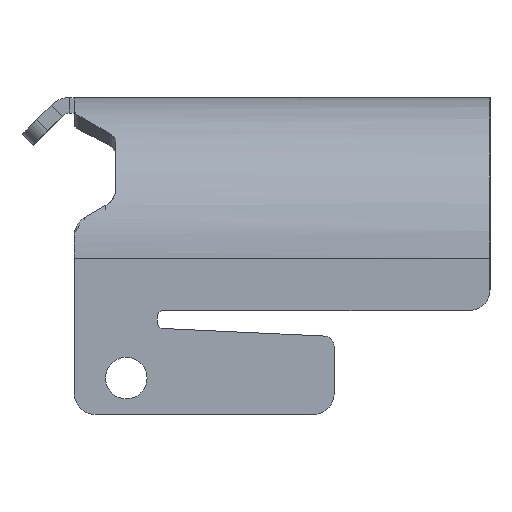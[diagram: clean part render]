
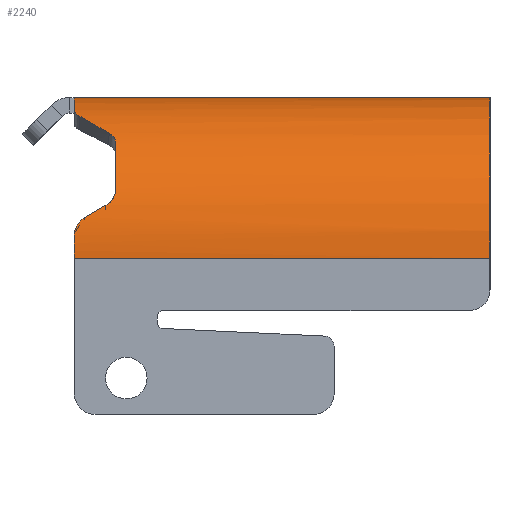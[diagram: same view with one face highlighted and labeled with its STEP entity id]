
A CAD part, left-side view. The second image highlights one B-rep face of the part: STEP entity #2240.
In plain terms, the highlighted cylindrical face has radius 15.5 mm (diameter 31 mm), a partial arc.
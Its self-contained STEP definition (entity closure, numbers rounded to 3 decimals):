
#738=DIRECTION('',(0.,1.,0.));
#739=VECTOR('',#738,40.);
#740=CARTESIAN_POINT('',(-160.25,-20.,0.));
#741=LINE('',#740,#739);
#758=CARTESIAN_POINT('',(-160.25,-20.,-15.5));
#759=DIRECTION('',(0.,1.,0.));
#760=DIRECTION('',(-1.,0.,0.));
#761=AXIS2_PLACEMENT_3D('',#758,#759,#760);
#772=CARTESIAN_POINT('',(-166.279,20.,-1.221));
#773=CARTESIAN_POINT('',(-166.384,20.,-1.265));
#774=CARTESIAN_POINT('',(-166.588,19.981,-1.354));
#775=CARTESIAN_POINT('',(-166.888,19.896,-1.492));
#776=CARTESIAN_POINT('',(-167.166,19.757,-1.627));
#777=CARTESIAN_POINT('',(-167.332,19.633,-1.712));
#778=CARTESIAN_POINT('',(-167.41,19.562,-1.753));
#780=DIRECTION('',(0.,1.,0.));
#781=VECTOR('',#780,40.);
#782=CARTESIAN_POINT('',(-175.75,-20.,-15.5));
#783=LINE('',#782,#781);
#784=CARTESIAN_POINT('',(-175.24,19.025,-11.556));
#785=CARTESIAN_POINT('',(-175.255,19.124,-11.613));
#786=CARTESIAN_POINT('',(-175.288,19.309,-11.742));
#787=CARTESIAN_POINT('',(-175.347,19.553,-11.984));
#788=CARTESIAN_POINT('',(-175.409,19.747,-12.261));
#789=CARTESIAN_POINT('',(-175.471,19.892,-12.568));
#790=CARTESIAN_POINT('',(-175.532,19.981,-12.903));
#791=CARTESIAN_POINT('',(-175.568,20.,-13.127));
#792=CARTESIAN_POINT('',(-175.585,20.,-13.241));
#794=CARTESIAN_POINT('',(-175.24,19.025,-11.556));
#795=CARTESIAN_POINT('',(-175.22,18.892,-11.479));
#796=CARTESIAN_POINT('',(-175.128,18.305,-11.14));
#797=CARTESIAN_POINT('',(-175.005,17.615,-10.742));
#798=CARTESIAN_POINT('',(-174.896,17.067,-10.426));
#799=CARTESIAN_POINT('',(-174.873,16.956,-10.361));
#801=CARTESIAN_POINT('',(-160.25,16.,-15.5));
#802=DIRECTION('',(0.,1.,0.));
#803=DIRECTION('',(-0.901,0.,0.433));
#804=AXIS2_PLACEMENT_3D('',#801,#802,#803);
#806=CARTESIAN_POINT('',(-169.982,16.646,-3.436));
#807=CARTESIAN_POINT('',(-169.84,16.845,-3.322));
#808=CARTESIAN_POINT('',(-169.405,17.431,-2.983));
#809=CARTESIAN_POINT('',(-168.671,18.315,-2.473));
#810=CARTESIAN_POINT('',(-167.954,19.059,-2.044));
#811=CARTESIAN_POINT('',(-167.535,19.45,-1.818));
#812=CARTESIAN_POINT('',(-167.41,19.562,-1.753));
#821=CARTESIAN_POINT('',(-169.982,16.646,-3.436));
#828=CARTESIAN_POINT('',(-169.982,16.646,-3.436));
#829=CARTESIAN_POINT('',(-170.041,16.565,-3.483));
#830=CARTESIAN_POINT('',(-170.165,16.416,-3.585));
#831=CARTESIAN_POINT('',(-170.379,16.233,-3.766));
#832=CARTESIAN_POINT('',(-170.606,16.1,-3.966));
#833=CARTESIAN_POINT('',(-170.847,16.018,-4.187));
#834=CARTESIAN_POINT('',(-171.005,16.,-4.338));
#835=CARTESIAN_POINT('',(-171.084,16.,-4.415));
#846=CARTESIAN_POINT('',(-171.084,16.,-4.415));
#853=CARTESIAN_POINT('',(-174.219,16.,-8.783));
#860=CARTESIAN_POINT('',(-174.219,16.,-8.783));
#861=CARTESIAN_POINT('',(-174.268,16.,-8.886));
#862=CARTESIAN_POINT('',(-174.364,16.019,-9.09));
#863=CARTESIAN_POINT('',(-174.499,16.106,-9.398));
#864=CARTESIAN_POINT('',(-174.619,16.247,-9.684));
#865=CARTESIAN_POINT('',(-174.722,16.438,-9.947));
#866=CARTESIAN_POINT('',(-174.809,16.677,-10.18));
#867=CARTESIAN_POINT('',(-174.854,16.859,-10.305));
#868=CARTESIAN_POINT('',(-174.873,16.956,-10.361));
#887=CARTESIAN_POINT('',(-174.873,16.956,-10.361));
#906=CARTESIAN_POINT('',(-160.25,20.,-15.5));
#907=DIRECTION('',(0.,1.,0.));
#908=DIRECTION('',(-0.389,0.,0.921));
#909=AXIS2_PLACEMENT_3D('',#906,#907,#908);
#918=CARTESIAN_POINT('',(-160.25,20.,-15.5));
#919=DIRECTION('',(0.,1.,0.));
#920=DIRECTION('',(-1.,0.,0.));
#921=AXIS2_PLACEMENT_3D('',#918,#919,#920);
#1183=CARTESIAN_POINT('',(-175.75,-20.,-15.5));
#1184=CARTESIAN_POINT('',(-160.25,-20.,0.));
#1185=VERTEX_POINT('',#1183);
#1186=VERTEX_POINT('',#1184);
#1191=CARTESIAN_POINT('',(-175.75,20.,-15.5));
#1192=VERTEX_POINT('',#1191);
#1193=CARTESIAN_POINT('',(-160.25,20.,0.));
#1194=VERTEX_POINT('',#1193);
#1335=VERTEX_POINT('',#821);
#1337=VERTEX_POINT('',#846);
#1339=VERTEX_POINT('',#853);
#1341=VERTEX_POINT('',#887);
#1367=VERTEX_POINT('',#772);
#1368=VERTEX_POINT('',#778);
#1371=VERTEX_POINT('',#784);
#1372=VERTEX_POINT('',#792);
#2211=CARTESIAN_POINT('',(-160.25,-20.,-15.5));
#2212=DIRECTION('',(0.,1.,0.));
#2213=DIRECTION('',(1.,0.,0.));
#2214=AXIS2_PLACEMENT_3D('',#2211,#2212,#2213);
#2215=CYLINDRICAL_SURFACE('',#2214,15.5);
#2217=ORIENTED_EDGE('',*,*,#2216,.F.);
#2219=ORIENTED_EDGE('',*,*,#2218,.T.);
#2220=ORIENTED_EDGE('',*,*,#2176,.F.);
#2221=ORIENTED_EDGE('',*,*,#2201,.F.);
#2223=ORIENTED_EDGE('',*,*,#2222,.T.);
#2225=ORIENTED_EDGE('',*,*,#2224,.T.);
#2227=ORIENTED_EDGE('',*,*,#2226,.F.);
#2229=ORIENTED_EDGE('',*,*,#2228,.T.);
#2231=ORIENTED_EDGE('',*,*,#2230,.F.);
#2233=ORIENTED_EDGE('',*,*,#2232,.T.);
#2235=ORIENTED_EDGE('',*,*,#2234,.F.);
#2237=ORIENTED_EDGE('',*,*,#2236,.T.);
#2238=EDGE_LOOP('',(#2217,#2219,#2220,#2221,#2223,#2225,#2227,#2229,#2231,#2233,
#2235,#2237));
#2239=FACE_OUTER_BOUND('',#2238,.F.);
#762=CIRCLE('',#761,15.5);
#779=B_SPLINE_CURVE_WITH_KNOTS('',3,(#772,#773,#774,#775,#776,#777,#778),
.UNSPECIFIED.,.F.,.F.,(4,1,1,1,4),(0.,0.25,0.5,0.75,1.),
.UNSPECIFIED.);
#793=B_SPLINE_CURVE_WITH_KNOTS('',3,(#784,#785,#786,#787,#788,#789,#790,#791,
#792),.UNSPECIFIED.,.F.,.F.,(4,1,1,1,1,1,4),(0.,0.167,
0.333,0.5,0.667,0.833,1.),
.UNSPECIFIED.);
#800=B_SPLINE_CURVE_WITH_KNOTS('',3,(#794,#795,#796,#797,#798,#799),
.UNSPECIFIED.,.F.,.F.,(4,1,1,4),(0.,0.189,0.835,1.),
.UNSPECIFIED.);
#805=CIRCLE('',#804,15.5);
#813=B_SPLINE_CURVE_WITH_KNOTS('',3,(#806,#807,#808,#809,#810,#811,#812),
.UNSPECIFIED.,.F.,.F.,(4,1,1,1,4),(0.,0.168,0.511,
0.855,1.),.UNSPECIFIED.);
#836=B_SPLINE_CURVE_WITH_KNOTS('',3,(#828,#829,#830,#831,#832,#833,#834,#835),
.UNSPECIFIED.,.F.,.F.,(4,1,1,1,1,4),(0.,0.2,0.4,0.6,0.8,1.),
.UNSPECIFIED.);
#869=B_SPLINE_CURVE_WITH_KNOTS('',3,(#860,#861,#862,#863,#864,#865,#866,#867,
#868),.UNSPECIFIED.,.F.,.F.,(4,1,1,1,1,1,4),(0.,0.167,
0.333,0.5,0.667,0.833,1.),
.UNSPECIFIED.);
#910=CIRCLE('',#909,15.5);
#922=CIRCLE('',#921,15.5);
#2176=EDGE_CURVE('',#1186,#1194,#741,.T.);
#2201=EDGE_CURVE('',#1185,#1186,#762,.T.);
#2216=EDGE_CURVE('',#1367,#1368,#779,.T.);
#2218=EDGE_CURVE('',#1367,#1194,#910,.T.);
#2222=EDGE_CURVE('',#1185,#1192,#783,.T.);
#2224=EDGE_CURVE('',#1192,#1372,#922,.T.);
#2226=EDGE_CURVE('',#1371,#1372,#793,.T.);
#2228=EDGE_CURVE('',#1371,#1341,#800,.T.);
#2230=EDGE_CURVE('',#1339,#1341,#869,.T.);
#2232=EDGE_CURVE('',#1339,#1337,#805,.T.);
#2234=EDGE_CURVE('',#1335,#1337,#836,.T.);
#2236=EDGE_CURVE('',#1335,#1368,#813,.T.);
#2240=ADVANCED_FACE('',(#2239),#2215,.T.);
